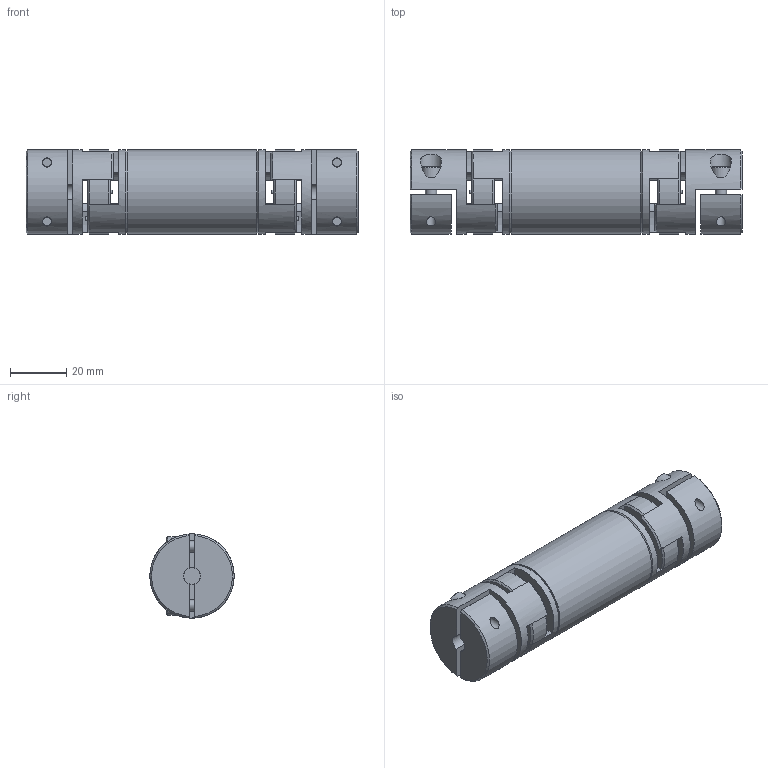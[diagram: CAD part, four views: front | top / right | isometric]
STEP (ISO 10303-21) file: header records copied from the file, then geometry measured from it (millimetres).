
FILE_DESCRIPTION(/* description */ ('Zwischenwellenkupplung AL14'),/* implementation_level */ '2;1');
FILE_NAME(/* name */ 'ALRP14-L85-6-KL-6-KL',/* time_stamp */ '2024-01-05T15:37:23+01:00',/* author */ ('rschoenwald'),/* organization */ ('CADENAS'),/* preprocessor_version */ 'ST-DEVELOPER v20',/* originating_system */ 'Autodesk Inventor 2024',/* authorisation */ ' ');
FILE_SCHEMA (('AUTOMOTIVE_DESIGN { 1 0 10303 214 3 1 1 }'));
Length unit declared in the file: millimetre
Products named in the file (1): Zwischenwellenkupplung AL14
Bounding box: 118.2 x 30 x 30 mm (x, y, z)
Volume: 60385.5 mm3; surface area: 28025 mm2
Topology: 11 solids, 11 shells, 274 faces, 626 edges, 400 vertices
Faces by surface type: cylinder 102, plane 92, cone 72, torus 8
Full cylindrical faces by diameter (mm): 1.385 x8, 3.242 x4, 4 x4, 5 x4, 6 x4, 7 x4, 10 x4, 20 x1, 30 x5
Entity records: 8248 total; most frequent: CARTESIAN_POINT 1788, DIRECTION 1414, ORIENTED_EDGE 1252, EDGE_CURVE 626, AXIS2_PLACEMENT_3D 604, VERTEX_POINT 400, CIRCLE 328, EDGE_LOOP 322
